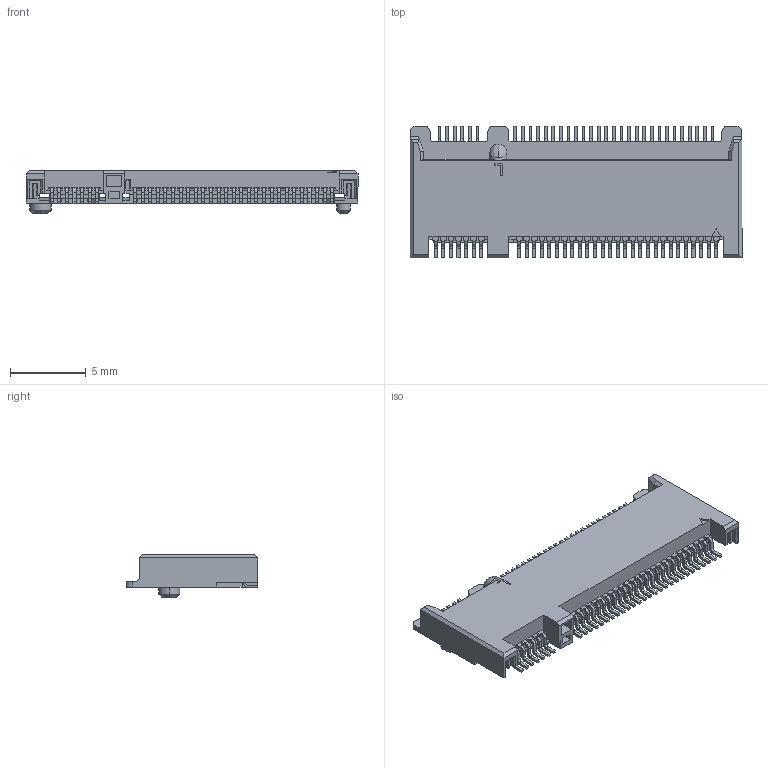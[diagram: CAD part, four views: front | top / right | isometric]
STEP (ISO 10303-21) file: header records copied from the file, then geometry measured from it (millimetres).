
FILE_DESCRIPTION (( 'STEP AP214' ), '1' );
FILE_NAME ('20_6411_067_101_894_L.STEP', '2017-01-25T00:53:09', ( 'Asmin' ), ( '' ), 'SwSTEP 2.0', 'SolidWorks 2014', '' );
FILE_SCHEMA (( 'AUTOMOTIVE_DESIGN' ));
Length unit declared in the file: millimetre
Products named in the file (1): 20_6411_067_101_894_L
Bounding box: 21.9 x 8.7 x 2.82 mm (x, y, z)
Volume: 196.4 mm3; surface area: 664.9 mm2
Topology: 1 solids, 1 shells, 1973 faces, 5577 edges, 3602 vertices
Faces by surface type: plane 1474, cylinder 485, cone 12, bspline 2
Entity records: 63482 total; most frequent: CARTESIAN_POINT 12145, ORIENTED_EDGE 11150, DIRECTION 10159, EDGE_CURVE 5575, VECTOR 4443, LINE 4443, VERTEX_POINT 3602, AXIS2_PLACEMENT_3D 2858
